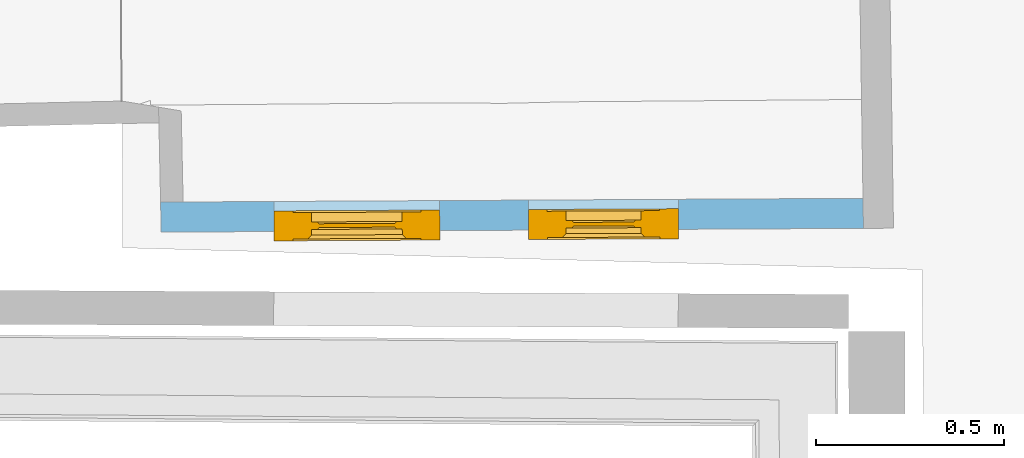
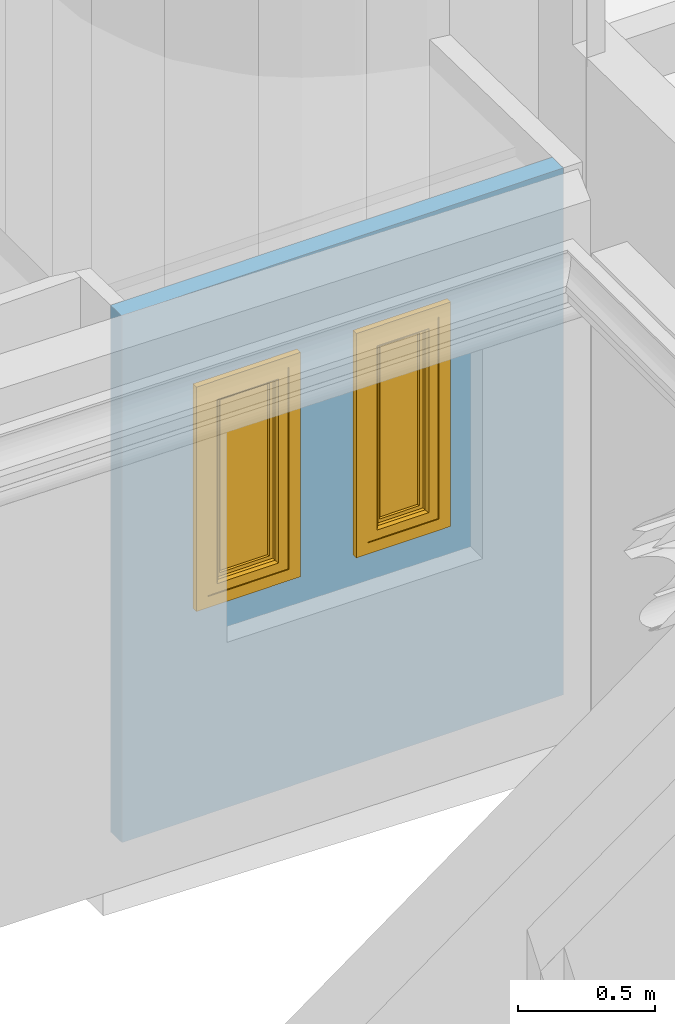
# One storey, part 45 of 72: 2 windows, 2 openings, plus 1 element that does not belong to this part.
"""IFC2X3 building model written with IfcOpenShell, lengths in centimetres."""

from ifc_helpers import new_model, entity, si_unit, converted_unit, direction, frame, origin, origin_with_axes, place, context, subcontext, project, spatial, polyline, outline, extrude, faceted_brep, shape, source, transform, mapped, material, material_list, layer, layer_set, layer_usage, type_object, element, fill, save


model = new_model("IFC2X3")

# Units and contexts
model_context = context("Model", 3, precision=0.0001, world=origin(), true_north=direction((0.225632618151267, 0.974212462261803, 0.0)))
body_context = subcontext(model_context, "Body", "Model", "MODEL_VIEW")
footprint_context = subcontext(model_context, "FootPrint", "Model", "MODEL_VIEW")
profile_context = subcontext(model_context, "Profile", "Model", "MODEL_VIEW")
ifc_project = project(units=[si_unit("LENGTHUNIT", "METRE", prefix="CENTI"), si_unit("AREAUNIT", "SQUARE_METRE", prefix="CENTI"), si_unit("VOLUMEUNIT", "CUBIC_METRE", prefix="CENTI"), converted_unit("PLANEANGLEUNIT", "DEGREE", entity("IfcRatioMeasure", 0.0174532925), si_unit("PLANEANGLEUNIT", "RADIAN"), dimensions=[0, 0, 0, 0, 0, 0, 0])], contexts=[model_context])

# Site, building, storey
site_placement = place(None, origin_with_axes())
site = spatial("IfcSite", under=ifc_project, at=site_placement, Name="Default Site", CompositionType="ELEMENT")
building_placement = place(site_placement, origin_with_axes())
building = spatial("IfcBuilding", under=site, at=building_placement, Name="Default Building", CompositionType="ELEMENT")
storey_placement = place(building_placement, frame((0.0, 0.0, 853.910374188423), z_axis=(0.0, 0.0, 1.0), x_axis=(1.0, 0.0, 0.0)))
storey = spatial("IfcBuildingStorey", under=building, at=storey_placement, Name="Niveau 2", CompositionType="ELEMENT", Elevation=853.910374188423)

# Wall, openings, windows
ifc_material_1 = material(Name="<aucun>")
ifc_layer = layer(ifc_material_1, 8.0)
ifc_layer_set = layer_set([ifc_layer], Name="default")
ifc_layer_usage = layer_usage(ifc_layer_set, "AXIS2", "POSITIVE", -4.0)
wall_type = type_object("IfcWallType", Name="default 80", PredefinedType="NOTDEFINED", material=ifc_layer_set)
wall_placement = place(storey_placement, frame((-891.769489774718, -314.103558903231, 1.4210854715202e-12), z_axis=(0.0, 0.0, 1.0), x_axis=(0.999985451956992, 0.00539405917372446, 0.0)))
wall = element("IfcWallStandardCase", 1, at=wall_placement, inside=storey, type_object=wall_type, material=ifc_layer_usage, Name="Enveloppe 170245", context=body_context, shape_type="SweptSolid", body=[
    extrude(outline(polyline([(-6.00016828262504, 4.00000000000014), (-5.87402926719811, -3.99999999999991), (180.99639290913, -4.00000000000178), (180.920074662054, 3.99999999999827), (-6.00016828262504, 4.00000000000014)])), frame((0.0, 0.0, -3.5527136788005e-13), z_axis=(0.0, 0.0, 1.0), x_axis=(1.0, 0.0, 0.0)), (0.0, 0.0, 1.0), 234.999999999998),
])
opening_1_placement = place(wall_placement, frame((91.8467861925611, -8.5265128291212e-13, 93.9999999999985), z_axis=(0.0, 0.0, 1.0), x_axis=(1.0, -9.90180160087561e-15, 0.0)))
cartesian_point_1 = entity("IfcCartesianPoint", [0.0, 0.0, 100.108563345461])
cartesian_point_2 = entity("IfcCartesianPoint", [39.9737666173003, 4.00000000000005])
opening_1 = element("IfcOpeningElement", 2, at=opening_1_placement, cuts=wall, Name="4294966522_11", ObjectType="Opening", shapes=[
    shape(body_context, "Body", "SweptSolid", [extrude(outline(polyline([(0.0, 100.108563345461), (0.0, 1.77635683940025e-13), (39.9737666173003, 1.77635683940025e-13), (39.9737666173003, 100.108563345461), (0.0, 100.108563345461)])), frame((0.0, 14.0, 0.0), z_axis=(0.0, -1.0, 0.0), x_axis=(1.0, 0.0, 0.0)), (0.0, 0.0, 1.0), 28.0)]),
    shape(profile_context, "Profile", "GeometricCurveSet", [entity("IfcGeometricCurveSet", [entity("IfcPolyline", [cartesian_point_1, entity("IfcCartesianPoint", [0.0, 0.0, 1.77635683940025e-13]), entity("IfcCartesianPoint", [39.9737666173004, 4.44089209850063e-14, 1.77635683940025e-13]), entity("IfcCartesianPoint", [39.9737666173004, 4.44089209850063e-14, 100.108563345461]), cartesian_point_1])])]),
    shape(footprint_context, "FootPrint", "GeometricCurveSet", [entity("IfcGeometricCurveSet", [entity("IfcPolyline", [cartesian_point_2, entity("IfcCartesianPoint", [0.0, 4.0]), entity("IfcCartesianPoint", [0.0, -4.00000000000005]), entity("IfcCartesianPoint", [39.9737666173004, -4.0]), cartesian_point_2])])]),
])
opening_2_placement = place(wall_placement, frame((24.1670385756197, -2.27373675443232e-13, 93.9999999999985), z_axis=(0.0, 0.0, 1.0), x_axis=(1.0, -9.90180160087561e-15, 0.0)))
cartesian_point_3 = entity("IfcCartesianPoint", [0.0, 4.44089209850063e-14, 100.108563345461])
cartesian_point_4 = entity("IfcCartesianPoint", [44.103720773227, 4.00000000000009])
opening_2 = element("IfcOpeningElement", 3, at=opening_2_placement, cuts=wall, Name="4294966521_11", ObjectType="Opening", shapes=[
    shape(body_context, "Body", "SweptSolid", [extrude(outline(polyline([(0.0, 100.108563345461), (0.0, 1.77635683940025e-13), (44.103720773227, 1.77635683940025e-13), (44.103720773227, 100.108563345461), (0.0, 100.108563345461)])), frame((0.0, 14.0, 0.0), z_axis=(0.0, -1.0, 0.0), x_axis=(1.0, 0.0, 0.0)), (0.0, 0.0, 1.0), 28.0)]),
    shape(profile_context, "Profile", "GeometricCurveSet", [entity("IfcGeometricCurveSet", [entity("IfcPolyline", [cartesian_point_3, entity("IfcCartesianPoint", [0.0, 4.44089209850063e-14, 1.77635683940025e-13]), entity("IfcCartesianPoint", [44.1037207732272, 4.44089209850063e-14, 1.77635683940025e-13]), entity("IfcCartesianPoint", [44.1037207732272, 4.44089209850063e-14, 100.108563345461]), cartesian_point_3])])]),
    shape(footprint_context, "FootPrint", "GeometricCurveSet", [entity("IfcGeometricCurveSet", [entity("IfcPolyline", [cartesian_point_4, entity("IfcCartesianPoint", [0.0, 4.00000000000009]), entity("IfcCartesianPoint", [0.0, -3.99999999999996]), entity("IfcCartesianPoint", [44.1037207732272, -3.99999999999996]), cartesian_point_4])])]),
])
ifc_material_2 = material(Name="Transparent")
ifc_material_3 = material(Name="Aluminium satiné")
ifc_material_4 = material(Name="Blanc trafic")
ifc_material_list = material_list([ifc_material_2, ifc_material_3, ifc_material_4])
window_style = type_object("IfcWindowStyle", Name="FN[R] 1VB[1V]", ConstructionType="NOTDEFINED", OperationType="SINGLE_PANEL", ParameterTakesPrecedence=True, Sizeable=False, material=ifc_material_list)
shared_shape_1 = source(origin_with_axes(), body_context, "Body", "Brep", [
    faceted_brep([(17.0518606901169, 95.108562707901, 3.99999991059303), (17.0518606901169, 95.108562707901, -3.99999991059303), (17.0518606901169, 5.00000007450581, -3.99999991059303), (17.0518606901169, 5.00000007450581, 3.99999991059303), (22.0518603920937, 100.108563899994, -3.99999991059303), (22.0518603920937, -5.33973260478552e-48, -3.99999991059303), (22.0518603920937, 100.108563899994, 3.99999991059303), (22.0518603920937, 3.07814620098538e-31, 3.99999991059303), (22.0518603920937, 3.07814620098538e-31, -3.99999991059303), (22.0518603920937, 0.0, 3.99999991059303), (-17.0518606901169, 5.00000007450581, -3.99999991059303), (-17.0518606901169, 5.00000007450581, 3.99999991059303), (22.0518603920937, 8.96010409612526e-33, -3.99999991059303), (-22.0518603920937, -6.27207286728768e-32, -3.99999991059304), (-17.0518606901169, 5.00000007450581, -3.99999991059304), (22.0518603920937, 0.0, -3.99999991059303), (-22.0518603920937, 0.0, 3.99999991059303), (-22.0518603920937, 0.0, -3.99999991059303), (-22.0518603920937, -9.26993100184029e-32, 3.99999991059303), (-17.0518606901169, 95.108562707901, -3.99999991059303), (-17.0518606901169, 95.108562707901, 3.99999991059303), (-22.0518603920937, 1.0679465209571e-47, -3.99999991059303), (-22.0518603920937, 100.108563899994, -3.99999991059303), (-22.0518603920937, 100.108563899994, 3.99999991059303), (17.0518606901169, 95.108562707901, 3.99999991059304), (22.0518603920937, 100.108563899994, 3.99999991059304)], [[[0, 1, 2, 3]], [[1, 4, 5, 2]], [[4, 6, 7, 8]], [[6, 0, 3, 9]], [[3, 2, 10, 11]], [[2, 12, 13, 14]], [[15, 9, 16, 17]], [[9, 3, 11, 18]], [[11, 10, 19, 20]], [[10, 21, 22, 19]], [[17, 16, 23, 22]], [[16, 11, 20, 23]], [[20, 19, 1, 0]], [[19, 22, 4, 1]], [[22, 23, 6, 4]], [[23, 20, 24, 25]]]),
    faceted_brep([(12.051860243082, 90.1085615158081, 3.50000001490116), (12.051860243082, 90.1085615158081, -2.5000000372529), (12.0518602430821, 10.0000001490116, -2.5000000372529), (12.0518602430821, 10.0000001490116, 3.50000001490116), (13.051860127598, 91.1085605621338, -3.4999999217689), (13.0518601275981, 9.00000035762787, -3.4999999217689), (13.0518600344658, 91.1085605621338, -3.50000001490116), (17.0518606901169, 95.108562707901, -3.50000001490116), (17.0518606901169, 5.00000007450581, -3.50000001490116), (13.0518600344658, 9.00000035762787, -3.50000001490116), (17.0518606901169, 95.108562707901, 3.50000001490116), (17.0518606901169, 5.00000007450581, 3.50000001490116), (12.051860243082, 10.0000001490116, 3.50000001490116), (12.051860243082, 10.0000001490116, -2.5000000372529), (-12.051860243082, 10.0000001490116, -2.5000000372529), (-12.051860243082, 10.0000001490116, 3.50000001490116), (13.0518600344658, 9.00000026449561, -3.4999999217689), (-13.0518600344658, 9.00000026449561, -3.49999992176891), (-12.051860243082, 10.0000001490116, -2.50000003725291), (-17.0518606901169, 5.00000007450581, -3.50000001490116), (-13.0518600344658, 9.00000035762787, -3.50000001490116), (-17.0518606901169, 5.00000007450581, 3.50000001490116), (-12.0518602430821, 90.1085615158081, -2.5000000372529), (-12.0518602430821, 90.1085615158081, 3.50000001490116), (-13.051860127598, 9.00000035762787, -3.4999999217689), (-13.0518601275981, 91.1085605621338, -3.4999999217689), (-17.0518606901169, 95.108562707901, -3.50000001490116), (-13.0518600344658, 91.1085605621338, -3.50000001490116), (-17.0518606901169, 95.108562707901, 3.50000001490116), (-12.051860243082, 90.1085615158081, 3.50000001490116), (-12.051860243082, 90.1085615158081, -2.5000000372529), (-13.0518600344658, 91.1085610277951, -3.49999954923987), (13.0518600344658, 91.1085610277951, -3.49999954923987), (17.0518606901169, 95.108562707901, 3.50000001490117)], [[[0, 1, 2, 3]], [[1, 4, 5, 2]], [[6, 7, 8, 9]], [[7, 10, 11, 8]], [[10, 0, 12, 11]], [[12, 13, 14, 15]], [[13, 16, 17, 18]], [[9, 8, 19, 20]], [[8, 11, 21, 19]], [[11, 12, 15, 21]], [[15, 14, 22, 23]], [[14, 24, 25, 22]], [[20, 19, 26, 27]], [[19, 21, 28, 26]], [[21, 15, 29, 28]], [[29, 30, 1, 0]], [[30, 31, 32, 1]], [[27, 26, 7, 6]], [[26, 28, 10, 7]], [[28, 29, 0, 33]]]),
    faceted_brep([(-16.5518596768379, 52.0542800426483, 3.50000001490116), (-12.5518605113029, 52.0542800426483, 3.50000001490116), (-12.5518605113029, 48.0542808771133, 3.50000001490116), (-16.5518596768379, 48.0542808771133, 3.50000001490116), (-16.5518596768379, 48.0542808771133, 4.30000014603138), (-12.5518605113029, 48.0542808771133, 4.30000014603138), (-12.5518605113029, 52.0542800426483, 4.30000014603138), (-16.5518596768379, 52.0542800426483, 4.30000014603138)], [[[0, 1, 2, 3]], [[4, 5, 6, 7]], [[3, 2, 5, 4]], [[2, 1, 6, 5]], [[1, 0, 7, 6]], [[0, 3, 4, 7]]]),
    faceted_brep([(-15.0518596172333, 50.8042812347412, 4.30000014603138), (-14.0518605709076, 50.8042812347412, 4.30000014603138), (-14.0518605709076, 49.3042826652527, 4.30000014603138), (-15.0518596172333, 49.3042826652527, 4.30000014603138), (-15.0518596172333, 49.3042826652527, 8.29999968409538), (-14.0518601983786, 49.3042826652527, 7.30000026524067), (-14.0518601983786, 50.8042812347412, 7.30000026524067), (-15.0518596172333, 50.8042812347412, 8.29999968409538), (-14.0518605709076, 49.3042826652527, 7.29999989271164), (-14.0518605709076, 50.8042812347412, 7.29999989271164)], [[[0, 1, 2, 3]], [[4, 5, 6, 7]], [[3, 2, 8, 4]], [[2, 1, 9, 8]], [[1, 0, 7, 9]], [[0, 3, 4, 7]]]),
    faceted_brep([(-15.0518596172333, 50.8042812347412, 8.29999968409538), (-14.0518601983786, 50.8042812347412, 7.30000026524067), (-14.0518601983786, 49.3042826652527, 7.30000026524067), (-15.0518596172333, 49.3042826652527, 8.29999968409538), (-2.05186028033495, 49.3042826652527, 8.29999968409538), (-2.05186028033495, 49.3042826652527, 7.29999989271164), (-2.05186028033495, 50.8042812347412, 7.29999989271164), (-2.05186028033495, 50.8042812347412, 8.29999968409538), (-14.0518605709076, 49.3042826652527, 7.29999989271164), (-14.0518605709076, 50.8042812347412, 7.29999989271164)], [[[0, 1, 2, 3]], [[4, 5, 6, 7]], [[3, 8, 5, 4]], [[8, 9, 6, 5]], [[9, 0, 7, 6]], [[0, 3, 4, 7]]]),
    faceted_brep([(10.5518601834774, 88.6085629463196, 0.999999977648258), (10.0518604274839, 88.1085634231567, 0.500000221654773), (10.0518604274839, 11.9999997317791, 0.50000022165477), (10.5518601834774, 11.5000002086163, 0.999999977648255), (10.0518606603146, 88.1085634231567, 0.499999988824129), (10.0518606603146, 88.1085634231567, -0.499999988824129), (10.0518606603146, 11.9999997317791, -0.499999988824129), (10.0518606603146, 11.9999997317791, 0.499999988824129), (10.551860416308, 88.6085629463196, -0.999999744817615), (10.551860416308, 11.5000002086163, -0.999999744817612), (10.0518606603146, 11.9999997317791, -0.499999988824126), (10.5518601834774, 88.6085629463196, -0.999999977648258), (12.051860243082, 90.1085615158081, -0.999999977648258), (12.051860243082, 10.0000001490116, -0.999999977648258), (10.5518601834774, 11.5000002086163, -0.999999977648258), (12.051860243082, 90.1085615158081, 0.999999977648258), (12.0518602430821, 10.0000001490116, 0.999999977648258), (12.0518602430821, 10.0000001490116, -0.999999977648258), (10.5518601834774, 11.5000002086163, 0.999999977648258), (12.051860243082, 10.0000001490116, 0.999999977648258), (10.0518606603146, 11.9999999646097, 0.500000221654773), (-10.0518606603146, 11.9999999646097, 0.500000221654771), (-10.5518601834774, 11.5000002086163, 0.999999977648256), (-10.0518606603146, 11.9999997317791, -0.499999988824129), (-10.0518606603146, 11.9999997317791, 0.499999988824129), (10.5518601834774, 11.4999999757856, -0.999999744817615), (-10.5518601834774, 11.4999999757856, -0.999999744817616), (-10.0518606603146, 11.9999997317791, -0.499999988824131), (-12.051860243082, 10.0000001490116, -0.999999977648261), (-10.5518601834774, 11.5000002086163, -0.999999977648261), (-12.051860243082, 10.0000001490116, 0.999999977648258), (-12.051860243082, 10.0000001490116, -0.999999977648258), (-10.5518601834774, 11.5000002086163, 0.999999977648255), (-12.051860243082, 10.0000001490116, 0.999999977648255), (-10.5518601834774, 11.5000002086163, 0.999999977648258), (-10.0518604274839, 11.9999997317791, 0.500000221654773), (-10.0518604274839, 88.1085634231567, 0.500000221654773), (-10.5518601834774, 88.6085629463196, 0.999999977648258), (-10.0518606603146, 88.1085634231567, -0.499999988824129), (-10.0518606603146, 88.1085634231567, 0.499999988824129), (-10.551860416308, 11.5000002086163, -0.999999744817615), (-10.551860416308, 88.6085629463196, -0.999999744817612), (-10.0518606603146, 88.1085634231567, -0.499999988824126), (-10.5518601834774, 11.5000002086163, -0.999999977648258), (-12.051860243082, 10.0000001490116, -0.999999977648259), (-12.051860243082, 90.1085615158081, -0.999999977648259), (-10.5518601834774, 88.6085629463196, -0.999999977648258), (-12.0518602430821, 90.1085615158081, 0.999999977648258), (-12.0518602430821, 90.1085615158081, -0.999999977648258), (-10.5518601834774, 11.5000002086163, 0.999999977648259), (-10.5518601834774, 88.6085629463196, 0.999999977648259), (-12.051860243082, 90.1085615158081, 0.999999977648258), (-10.0518606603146, 88.1085631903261, 0.500000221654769), (10.0518606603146, 88.1085631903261, 0.500000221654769), (-10.5518601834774, 88.6085631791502, -0.999999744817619), (10.5518601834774, 88.6085631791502, -0.999999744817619), (12.051860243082, 90.1085615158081, -0.999999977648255), (10.5518601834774, 88.6085629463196, -0.999999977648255), (-12.051860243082, 90.1085615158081, -0.999999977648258), (10.5518601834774, 88.6085629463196, 0.999999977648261), (12.051860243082, 90.1085615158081, 0.999999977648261)], [[[0, 1, 2, 3]], [[4, 5, 6, 7]], [[5, 8, 9, 10]], [[11, 12, 13, 14]], [[12, 15, 16, 17]], [[15, 0, 18, 19]], [[18, 20, 21, 22]], [[7, 6, 23, 24]], [[6, 25, 26, 27]], [[14, 13, 28, 29]], [[13, 19, 30, 31]], [[19, 18, 32, 33]], [[34, 35, 36, 37]], [[24, 23, 38, 39]], [[23, 40, 41, 42]], [[43, 44, 45, 46]], [[31, 30, 47, 48]], [[30, 49, 50, 51]], [[37, 52, 53, 0]], [[39, 38, 5, 4]], [[38, 54, 55, 5]], [[46, 45, 56, 57]], [[58, 51, 15, 12]], [[51, 50, 59, 60]]]),
    faceted_brep([(-10.0518606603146, 88.1085634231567, 0.499999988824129), (-10.0518606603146, 11.9999997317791, 0.499999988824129), (10.0518606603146, 11.9999997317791, 0.499999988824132), (10.0518606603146, 88.1085634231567, 0.499999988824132), (10.0518606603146, 88.1085634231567, -0.499999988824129), (10.0518606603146, 11.9999997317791, -0.499999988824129), (-10.0518606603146, 11.9999997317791, -0.499999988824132), (-10.0518606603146, 88.1085634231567, -0.499999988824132), (10.0518606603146, 88.1085634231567, 0.499999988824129), (10.0518606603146, 11.9999997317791, 0.499999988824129), (-10.0518606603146, 11.9999997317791, -0.499999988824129), (-10.0518606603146, 88.1085634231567, -0.499999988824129)], [[[0, 1, 2, 3]], [[4, 5, 6, 7]], [[8, 9, 5, 4]], [[9, 1, 10, 5]], [[1, 0, 11, 10]], [[0, 8, 4, 11]]]),
])
window_1_placement = place(opening_2_placement, frame((1.13686837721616e-13, -6.5, 0.0), z_axis=(0.0, 0.0, 1.0), x_axis=(1.0, 0.0, 0.0)))
window_1 = element("IfcWindow", 4, at=window_1_placement, inside=storey, type_object=window_style, material=ifc_material_list, Name="Fenêtre 176759", OverallHeight=100.10856334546, OverallWidth=44.1037207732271, context=body_context, shape_type="MappedRepresentation", body=[
    mapped(shared_shape_1, transform((22.0518603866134, 4.00000000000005, -3.5527136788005e-13), x_axis=(-1.0, -8.67361737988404e-19, 0.0), y_axis=(0.0, 0.0, 1.0), z_axis=(-8.67361737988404e-19, 1.0, 0.0), scale=1.0, scale2=1.0, scale3=1.0, uniform=False)),
])
fill(opening_2, window_1)
shared_shape_2 = source(origin_with_axes(), body_context, "Body", "Brep", [
    faceted_brep([(14.9868831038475, 95.108562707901, 3.99999991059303), (14.9868831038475, 95.108562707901, -3.99999991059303), (14.9868831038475, 5.00000007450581, -3.99999991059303), (14.9868831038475, 5.00000007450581, 3.99999991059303), (19.9868828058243, 100.108563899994, -3.99999991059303), (19.9868828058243, 0.0, -3.99999991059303), (19.9868828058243, 100.108563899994, 3.99999991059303), (19.9868828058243, 0.0, 3.99999991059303), (-14.9868831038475, 5.0000000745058, -3.99999991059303), (-14.9868831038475, 5.0000000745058, 3.99999991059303), (19.9868828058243, -6.31960182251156e-35, -3.99999991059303), (-19.9868828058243, 4.42372127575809e-34, -3.99999991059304), (-14.9868831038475, 5.00000007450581, -3.99999991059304), (-19.9868828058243, 0.0, 3.99999991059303), (-19.9868828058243, 0.0, -3.99999991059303), (-14.9868831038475, 5.00000007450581, 3.99999991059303), (-19.9868828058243, 6.74238347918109e-34, 3.99999991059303), (-14.9868831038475, 5.00000007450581, -3.99999991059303), (-14.9868831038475, 95.108562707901, -3.99999991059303), (-14.9868831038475, 95.108562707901, 3.99999991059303), (-19.9868828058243, 100.108563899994, -3.99999991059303), (-19.9868828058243, 100.108563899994, 3.99999991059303), (14.9868831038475, 95.108562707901, 3.99999991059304), (19.9868828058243, 100.108563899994, 3.99999991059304)], [[[0, 1, 2, 3]], [[1, 4, 5, 2]], [[4, 6, 7, 5]], [[6, 0, 3, 7]], [[3, 2, 8, 9]], [[2, 10, 11, 12]], [[5, 7, 13, 14]], [[7, 3, 15, 16]], [[15, 17, 18, 19]], [[17, 14, 20, 18]], [[14, 13, 21, 20]], [[13, 15, 19, 21]], [[19, 18, 1, 0]], [[18, 20, 4, 1]], [[20, 21, 6, 4]], [[21, 19, 22, 23]]]),
    faceted_brep([(9.98688340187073, 90.1085615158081, 3.50000001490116), (9.98688340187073, 90.1085615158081, -2.5000000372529), (9.98688340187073, 10.0000001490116, -2.5000000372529), (9.98688340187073, 10.0000001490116, 3.50000001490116), (10.9868832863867, 91.1085605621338, -3.4999999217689), (10.9868832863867, 9.00000035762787, -3.4999999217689), (10.9868831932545, 91.1085605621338, -3.50000001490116), (14.9868831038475, 95.108562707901, -3.50000001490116), (14.9868831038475, 5.00000007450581, -3.50000001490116), (10.9868831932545, 9.00000035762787, -3.50000001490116), (14.9868831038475, 95.108562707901, 3.50000001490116), (14.9868831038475, 5.00000007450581, 3.50000001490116), (-9.98688340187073, 10.0000001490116, -2.5000000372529), (-9.98688340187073, 10.0000001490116, 3.50000001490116), (10.9868831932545, 9.00000026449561, -3.4999999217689), (-10.9868831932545, 9.00000026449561, -3.4999999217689), (-14.9868831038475, 5.00000007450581, -3.50000001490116), (-10.9868831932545, 9.00000035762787, -3.50000001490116), (-14.9868831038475, 5.00000007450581, 3.50000001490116), (-9.98688340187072, 90.1085615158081, -2.5000000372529), (-9.98688340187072, 90.1085615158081, 3.50000001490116), (-10.9868832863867, 9.00000035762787, -3.4999999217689), (-10.9868832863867, 91.1085605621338, -3.49999992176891), (-9.98688340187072, 90.1085615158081, -2.50000003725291), (-14.9868831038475, 95.108562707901, -3.50000001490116), (-10.9868831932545, 91.1085605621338, -3.50000001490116), (-14.9868831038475, 95.108562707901, 3.50000001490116), (-9.98688340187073, 90.1085615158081, 3.50000001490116), (-9.98688340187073, 90.1085615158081, -2.5000000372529), (-10.9868831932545, 91.1085610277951, -3.49999954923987), (10.9868831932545, 91.1085610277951, -3.49999954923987), (14.9868831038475, 95.108562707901, 3.50000001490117)], [[[0, 1, 2, 3]], [[1, 4, 5, 2]], [[6, 7, 8, 9]], [[7, 10, 11, 8]], [[10, 0, 3, 11]], [[3, 2, 12, 13]], [[2, 14, 15, 12]], [[9, 8, 16, 17]], [[8, 11, 18, 16]], [[11, 3, 13, 18]], [[13, 12, 19, 20]], [[12, 21, 22, 23]], [[17, 16, 24, 25]], [[16, 18, 26, 24]], [[18, 13, 27, 26]], [[27, 28, 1, 0]], [[28, 29, 30, 1]], [[25, 24, 7, 6]], [[24, 26, 10, 7]], [[26, 27, 0, 31]]]),
    faceted_brep([(-14.4868835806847, 52.0542800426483, 3.50000001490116), (-10.4868829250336, 52.0542800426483, 3.50000001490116), (-10.4868829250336, 48.0542808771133, 3.50000001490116), (-14.4868835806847, 48.0542808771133, 3.50000001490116), (-14.4868835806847, 48.0542808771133, 4.30000014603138), (-10.4868829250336, 48.0542808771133, 4.30000014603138), (-10.4868829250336, 52.0542800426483, 4.30000014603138), (-14.4868835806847, 52.0542800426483, 4.30000014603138)], [[[0, 1, 2, 3]], [[4, 5, 6, 7]], [[3, 2, 5, 4]], [[2, 1, 6, 5]], [[1, 0, 7, 6]], [[0, 3, 4, 7]]]),
    faceted_brep([(-12.98688352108, 50.8042812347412, 4.30000014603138), (-11.9868829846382, 50.8042812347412, 4.30000014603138), (-11.9868829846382, 49.3042826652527, 4.30000014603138), (-12.98688352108, 49.3042826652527, 4.30000014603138), (-12.98688352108, 49.3042826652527, 8.29999968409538), (-11.9868833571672, 49.3042826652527, 7.29999952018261), (-11.9868833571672, 50.8042812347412, 7.29999952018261), (-12.98688352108, 50.8042812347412, 8.29999968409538), (-11.9868829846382, 49.3042826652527, 7.29999989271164), (-11.9868829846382, 50.8042812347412, 7.29999989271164)], [[[0, 1, 2, 3]], [[4, 5, 6, 7]], [[3, 2, 8, 4]], [[2, 1, 9, 8]], [[1, 0, 7, 9]], [[0, 3, 4, 7]]]),
    faceted_brep([(-12.98688352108, 50.8042812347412, 8.29999968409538), (-11.9868833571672, 50.8042812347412, 7.29999952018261), (-11.9868833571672, 49.3042826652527, 7.29999952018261), (-12.98688352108, 49.3042826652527, 8.29999968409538), (0.0131167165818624, 49.3042826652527, 8.29999968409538), (0.0131167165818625, 49.3042826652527, 7.29999989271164), (0.0131167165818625, 50.8042812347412, 7.29999989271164), (0.0131167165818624, 50.8042812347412, 8.29999968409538), (-11.9868829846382, 49.3042826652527, 7.29999989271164), (0.0131167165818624, 49.3042826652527, 7.29999989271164), (-11.9868829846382, 50.8042812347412, 7.29999989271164), (0.0131167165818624, 50.8042812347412, 7.29999989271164)], [[[0, 1, 2, 3]], [[4, 5, 6, 7]], [[3, 8, 9, 4]], [[8, 10, 11, 9]], [[10, 0, 7, 11]], [[0, 3, 4, 7]]]),
    faceted_brep([(8.48688334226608, 88.6085629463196, 0.999999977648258), (7.98688321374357, 88.1085634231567, 0.499999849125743), (7.98688321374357, 11.9999997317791, 0.499999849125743), (8.48688334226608, 11.5000002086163, 0.999999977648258), (7.98688307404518, 88.1085634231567, 0.499999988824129), (7.98688307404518, 88.1085634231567, -0.499999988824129), (7.98688307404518, 11.9999997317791, -0.499999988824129), (7.98688307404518, 11.9999997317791, 0.499999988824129), (8.4868832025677, 88.6085629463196, -1.00000011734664), (8.4868832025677, 11.5000002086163, -1.00000011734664), (8.48688334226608, 88.6085629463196, -0.999999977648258), (9.98688340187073, 90.1085615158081, -0.999999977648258), (9.98688340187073, 10.0000001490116, -0.999999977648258), (8.48688334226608, 11.5000002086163, -0.999999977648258), (9.98688340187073, 90.1085615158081, 0.999999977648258), (9.98688340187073, 10.0000001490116, 0.999999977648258), (7.98688307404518, 11.9999999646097, 0.500000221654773), (-7.98688307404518, 11.9999999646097, 0.500000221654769), (-8.48688334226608, 11.5000002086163, 0.999999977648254), (-7.98688307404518, 11.9999997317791, -0.499999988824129), (-7.98688307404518, 11.9999997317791, 0.499999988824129), (8.48688334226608, 11.4999999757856, -0.999999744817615), (-8.48688334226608, 11.4999999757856, -0.999999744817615), (-9.98688340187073, 10.0000001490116, -0.99999997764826), (-8.48688334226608, 11.5000002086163, -0.99999997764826), (-9.98688340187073, 10.0000001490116, 0.999999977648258), (-9.98688340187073, 10.0000001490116, -0.999999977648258), (-8.48688334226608, 11.5000002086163, 0.999999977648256), (-9.98688340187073, 10.0000001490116, 0.999999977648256), (-8.48688334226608, 11.5000002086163, 0.999999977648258), (-7.98688321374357, 11.9999997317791, 0.499999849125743), (-7.98688321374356, 88.1085634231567, 0.499999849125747), (-8.48688334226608, 88.6085629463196, 0.999999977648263), (-7.98688307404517, 88.1085634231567, -0.499999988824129), (-7.98688307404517, 88.1085634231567, 0.499999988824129), (-8.4868832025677, 11.5000002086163, -1.00000011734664), (-8.48688320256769, 88.6085629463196, -1.00000011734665), (-7.98688307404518, 88.1085634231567, -0.499999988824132), (-8.48688334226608, 11.5000002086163, -0.999999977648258), (-9.98688340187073, 90.1085615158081, -0.999999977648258), (-8.48688334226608, 88.6085629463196, -0.999999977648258), (-9.98688340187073, 90.1085615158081, 0.999999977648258), (-8.48688334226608, 88.6085629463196, 0.999999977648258), (-7.98688307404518, 88.1085631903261, 0.500000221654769), (7.98688307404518, 88.1085631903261, 0.500000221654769), (-7.98688307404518, 88.1085634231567, 0.499999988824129), (-7.98688307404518, 88.1085634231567, -0.499999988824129), (-8.48688334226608, 88.6085631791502, -0.999999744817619), (8.48688334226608, 88.6085631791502, -0.999999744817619), (9.98688340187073, 90.1085615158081, -0.999999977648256), (8.48688334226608, 88.6085629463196, -0.999999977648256), (8.48688334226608, 88.6085629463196, 0.99999997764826), (9.98688340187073, 90.1085615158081, 0.999999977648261)], [[[0, 1, 2, 3]], [[4, 5, 6, 7]], [[5, 8, 9, 6]], [[10, 11, 12, 13]], [[11, 14, 15, 12]], [[14, 0, 3, 15]], [[3, 16, 17, 18]], [[7, 6, 19, 20]], [[6, 21, 22, 19]], [[13, 12, 23, 24]], [[12, 15, 25, 26]], [[15, 3, 27, 28]], [[29, 30, 31, 32]], [[20, 19, 33, 34]], [[19, 35, 36, 37]], [[38, 26, 39, 40]], [[26, 25, 41, 39]], [[25, 29, 42, 41]], [[42, 43, 44, 0]], [[45, 46, 5, 4]], [[46, 47, 48, 5]], [[40, 39, 49, 50]], [[39, 41, 14, 11]], [[41, 42, 51, 52]]]),
    faceted_brep([(-7.98688307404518, 88.1085634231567, 0.499999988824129), (-7.98688307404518, 11.9999997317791, 0.499999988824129), (7.98688307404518, 11.9999997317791, 0.499999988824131), (7.98688307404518, 88.1085634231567, 0.499999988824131), (7.98688307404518, 88.1085634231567, -0.499999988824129), (7.98688307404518, 11.9999997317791, -0.499999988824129), (-7.98688307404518, 11.9999997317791, -0.499999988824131), (-7.98688307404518, 88.1085634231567, -0.499999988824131), (7.98688307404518, 88.1085634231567, 0.499999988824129), (7.98688307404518, 11.9999997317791, 0.499999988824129), (-7.98688307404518, 11.9999997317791, -0.499999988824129), (-7.98688307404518, 88.1085634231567, -0.499999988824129)], [[[0, 1, 2, 3]], [[4, 5, 6, 7]], [[8, 9, 5, 4]], [[9, 1, 10, 5]], [[1, 0, 11, 10]], [[0, 8, 4, 11]]]),
])
window_2_placement = place(opening_1_placement, frame((1.13686837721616e-13, -6.49999999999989, 0.0), z_axis=(0.0, 0.0, 1.0), x_axis=(1.0, 0.0, 0.0)))
window_2 = element("IfcWindow", 5, at=window_2_placement, inside=storey, type_object=window_style, material=ifc_material_list, Name="Fenêtre 176760", OverallHeight=100.10856334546, OverallWidth=39.9737666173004, context=body_context, shape_type="MappedRepresentation", body=[
    mapped(shared_shape_2, transform((19.9868833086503, 4.00000000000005, -3.5527136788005e-13), x_axis=(-1.0, -8.67361737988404e-19, 0.0), y_axis=(0.0, 0.0, 1.0), z_axis=(-8.67361737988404e-19, 1.0, 0.0), scale=1.0, scale2=1.0, scale3=1.0, uniform=False)),
])
fill(opening_1, window_2)

save(model, "model.ifc")
